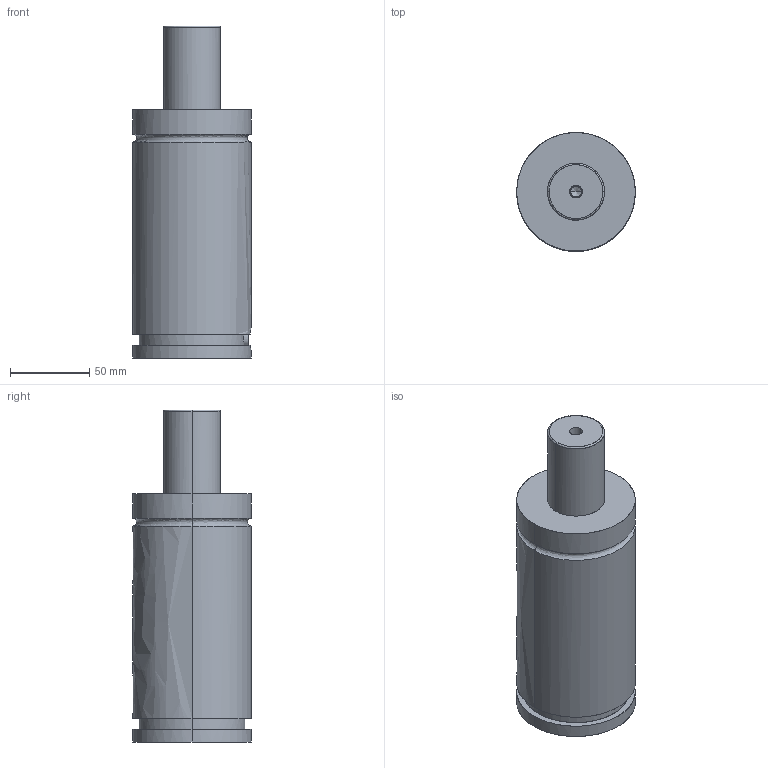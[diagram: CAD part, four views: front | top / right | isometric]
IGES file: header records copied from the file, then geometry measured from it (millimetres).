
Global section: file name: E:\UnigraphicsGraphicData\MISUMI_PRESS-PARTS\IGES\3d_gse75-50_03850_r00.igs; native system: NX V5.0; preprocessor: UGS NX IGES V5.0; author: MISUMI; date: 20110105.160802; units: millimetre
Bounding box: 75 x 75 x 210 mm (x, y, z)
Surface area: 56447.2 mm2 (no closed solid volume)
Topology: 0 solids, 0 shells, 75 faces, 606 edges, 604 vertices
Faces by surface type: bspline 75
